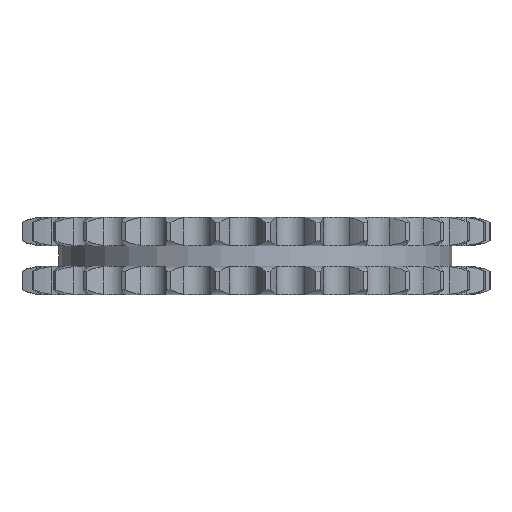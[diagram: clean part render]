
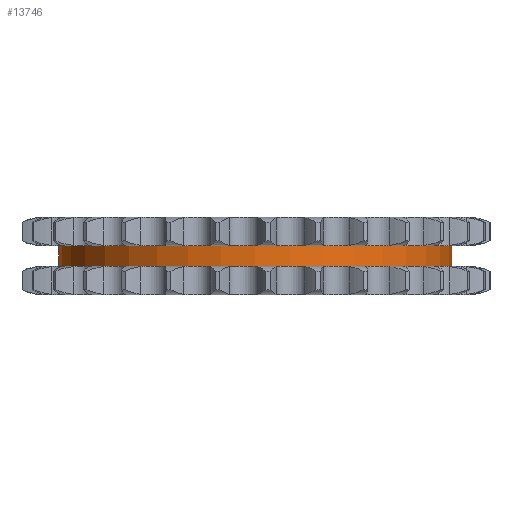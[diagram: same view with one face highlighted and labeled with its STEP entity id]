
A CAD part, left-side view. The second image highlights one B-rep face of the part: STEP entity #13746.
In plain terms, the highlighted cylindrical face has radius 77.097 mm (diameter 154.195 mm), a partial arc.
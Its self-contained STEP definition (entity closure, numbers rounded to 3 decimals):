
#1722=DIRECTION('',(0.,0.,-1.));
#1723=VECTOR('',#1722,8.1);
#1724=CARTESIAN_POINT('',(0.,77.097,4.05));
#1725=LINE('',#1724,#1723);
#1729=CARTESIAN_POINT('',(0.,0.,4.05));
#1730=DIRECTION('',(0.,0.,1.));
#1731=DIRECTION('',(0.,1.,0.));
#1732=AXIS2_PLACEMENT_3D('',#1729,#1730,#1731);
#1737=DIRECTION('',(0.,0.,-1.));
#1738=VECTOR('',#1737,8.1);
#1739=CARTESIAN_POINT('',(0.,-77.097,4.05));
#1740=LINE('',#1739,#1738);
#1744=CARTESIAN_POINT('',(0.,0.,-4.05));
#1745=DIRECTION('',(0.,0.,1.));
#1746=DIRECTION('',(0.,1.,0.));
#1747=AXIS2_PLACEMENT_3D('',#1744,#1745,#1746);
#10752=CARTESIAN_POINT('',(0.,77.097,4.05));
#10753=CARTESIAN_POINT('',(0.,77.097,-4.05));
#10754=VERTEX_POINT('',#10752);
#10755=VERTEX_POINT('',#10753);
#10756=CARTESIAN_POINT('',(0.,-77.097,4.05));
#10757=CARTESIAN_POINT('',(0.,-77.097,-4.05));
#10758=VERTEX_POINT('',#10756);
#10759=VERTEX_POINT('',#10757);
#13734=CARTESIAN_POINT('',(0.,0.,4.455));
#13735=DIRECTION('',(0.,0.,-1.));
#13736=DIRECTION('',(0.,-1.,0.));
#13737=AXIS2_PLACEMENT_3D('',#13734,#13735,#13736);
#13738=CYLINDRICAL_SURFACE('',#13737,77.097);
#13739=ORIENTED_EDGE('',*,*,#13724,.F.);
#13740=ORIENTED_EDGE('',*,*,#13714,.T.);
#13741=ORIENTED_EDGE('',*,*,#13728,.T.);
#13743=ORIENTED_EDGE('',*,*,#13742,.F.);
#13744=EDGE_LOOP('',(#13739,#13740,#13741,#13743));
#13745=FACE_OUTER_BOUND('',#13744,.F.);
#13746=ADVANCED_FACE('',(#13745),#13738,.T.);
#1733=CIRCLE('',#1732,77.097);
#1748=CIRCLE('',#1747,77.097);
#13714=EDGE_CURVE('',#10754,#10758,#1733,.T.);
#13724=EDGE_CURVE('',#10754,#10755,#1725,.T.);
#13728=EDGE_CURVE('',#10758,#10759,#1740,.T.);
#13742=EDGE_CURVE('',#10755,#10759,#1748,.T.);
